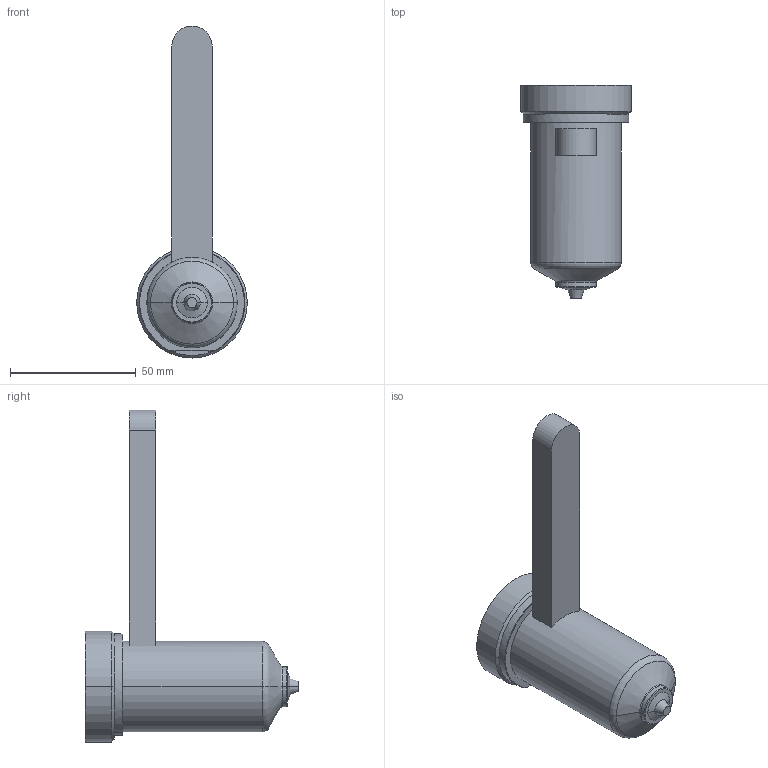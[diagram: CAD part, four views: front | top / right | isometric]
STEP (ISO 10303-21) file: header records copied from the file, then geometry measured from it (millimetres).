
FILE_DESCRIPTION((''),'2;1');
FILE_NAME('EO12_VG-BL_WR_070_COT','2024-02-19T13:15:41',('sundharh'),(''),'CREO PARAMETRIC BY PTC INC, 2023154','CREO PARAMETRIC BY PTC INC, 2023154','');
FILE_SCHEMA(('CONFIG_CONTROL_DESIGN'));
Length unit declared in the file: millimetre
Products named in the file (1): EO12_VG-BL_WR_070_COT
Bounding box: 44 x 85 x 132 mm (x, y, z)
Volume: 99524.2 mm3; surface area: 16520.6 mm2
Topology: 1 solids, 1 shells, 38 faces, 81 edges, 48 vertices
Faces by surface type: cylinder 11, plane 10, torus 9, cone 6, sphere 2
Entity records: 1135 total; most frequent: CARTESIAN_POINT 247, DIRECTION 199, ORIENTED_EDGE 162, AXIS2_PLACEMENT_3D 86, EDGE_CURVE 81, VERTEX_POINT 48, CIRCLE 48, EDGE_LOOP 41
